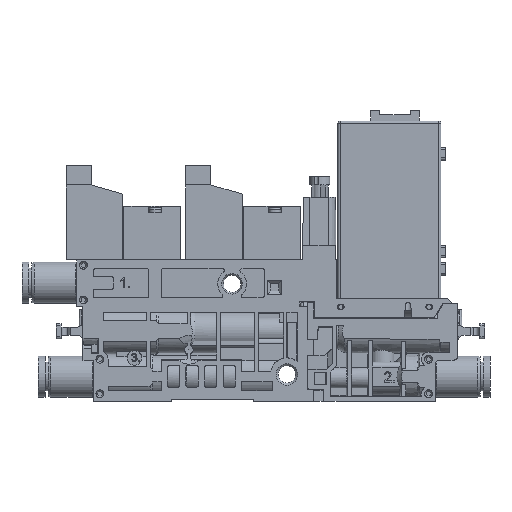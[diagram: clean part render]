
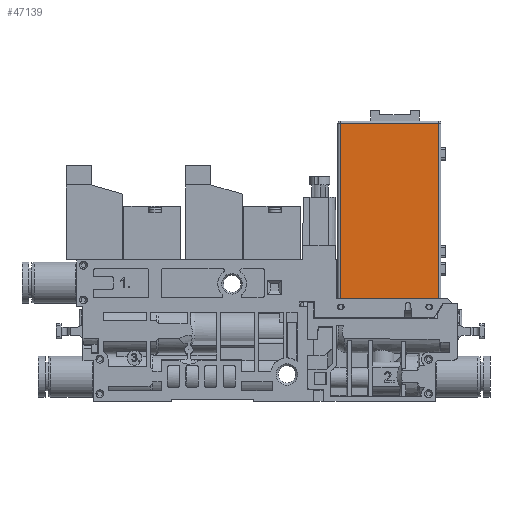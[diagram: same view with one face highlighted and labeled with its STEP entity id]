
A CAD part, left-side view. The second image highlights one B-rep face of the part: STEP entity #47139.
In plain terms, the highlighted planar face has unit normal (-1, 0, 0).
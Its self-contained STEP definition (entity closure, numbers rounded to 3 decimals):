
#2179=LINE('',#66291,#5573);
#2392=LINE('',#67319,#5786);
#2393=LINE('',#67323,#5787);
#2394=LINE('',#67325,#5788);
#5573=VECTOR('',#55969,1000.);
#5786=VECTOR('',#56668,1000.);
#5787=VECTOR('',#56673,1000.);
#5788=VECTOR('',#56674,1000.);
#8785=PLANE('',#49747);
#15080=ORIENTED_EDGE('',*,*,#22398,.T.);
#15081=ORIENTED_EDGE('',*,*,#22400,.F.);
#15082=ORIENTED_EDGE('',*,*,#22401,.T.);
#15083=ORIENTED_EDGE('',*,*,#22010,.T.);
#22010=EDGE_CURVE('',#26261,#26260,#2179,.T.);
#22398=EDGE_CURVE('',#26260,#26549,#2392,.T.);
#22400=EDGE_CURVE('',#26550,#26549,#2393,.T.);
#22401=EDGE_CURVE('',#26550,#26261,#2394,.T.);
#26260=VERTEX_POINT('',#66288);
#26261=VERTEX_POINT('',#66292);
#26549=VERTEX_POINT('',#67320);
#26550=VERTEX_POINT('',#67324);
#30000=EDGE_LOOP('',(#15080,#15081,#15082,#15083));
#32076=FACE_BOUND('',#30000,.T.);
#47139=ADVANCED_FACE('',(#32076),#8785,.F.);
#49747=AXIS2_PLACEMENT_3D('',#67322,#56671,#56672);
#55969=DIRECTION('',(0.,1.,0.));
#56668=DIRECTION('',(0.,0.,-1.));
#56671=DIRECTION('',(1.,0.,0.));
#56672=DIRECTION('',(0.,0.,1.));
#56673=DIRECTION('',(0.,1.,0.));
#56674=DIRECTION('',(0.,0.,1.));
#66288=CARTESIAN_POINT('',(-4.9,-7.9,67.5));
#66291=CARTESIAN_POINT('',(-4.9,-31.9,67.5));
#66292=CARTESIAN_POINT('',(-4.9,-31.9,67.5));
#67319=CARTESIAN_POINT('',(-4.9,-7.9,67.5));
#67320=CARTESIAN_POINT('',(-4.9,-7.9,25.));
#67322=CARTESIAN_POINT('',(-4.9,-19.9,46.));
#67323=CARTESIAN_POINT('',(-4.9,-31.9,25.));
#67324=CARTESIAN_POINT('',(-4.9,-31.9,25.));
#67325=CARTESIAN_POINT('',(-4.9,-31.9,25.));
